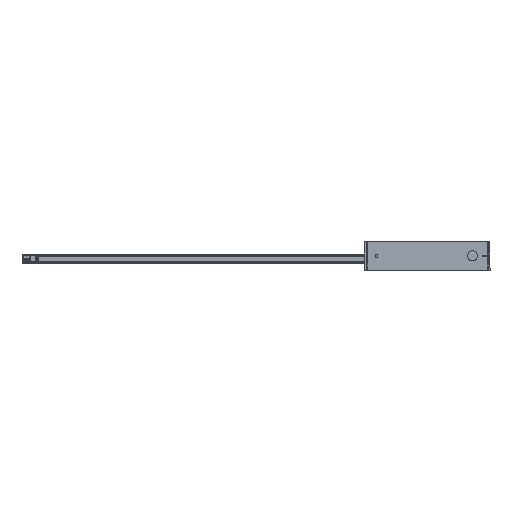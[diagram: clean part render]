
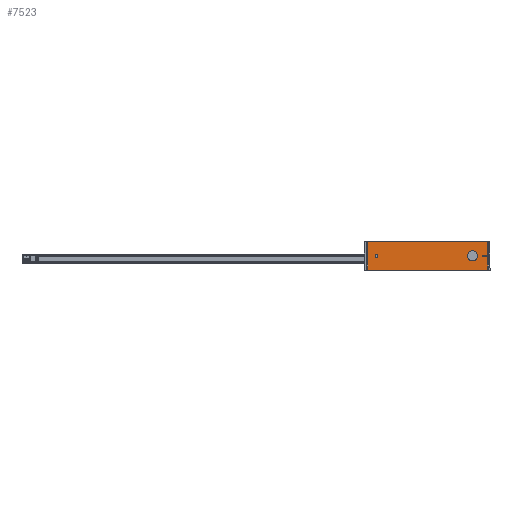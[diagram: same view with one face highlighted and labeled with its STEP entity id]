
A CAD part, top view. The second image highlights one B-rep face of the part: STEP entity #7523.
In plain terms, the highlighted planar face has unit normal (0, 0, 1) as drawn and (0, -1, 0) by its records, which use the part's own axes.
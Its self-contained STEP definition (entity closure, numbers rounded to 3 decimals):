
#3760 = EDGE_LOOP ( 'NONE', ( #6765, #6769, #6767, #6771 ) ) ;
#3767 = EDGE_LOOP ( 'NONE', ( #6766, #6768 ) ) ;
#3911 = EDGE_LOOP ( 'NONE', ( #6757, #6758, #6756, #6760, #6759 ) ) ;
#3915 = EDGE_LOOP ( 'NONE', ( #6761, #6763, #6762, #6764 ) ) ;
#4886 = EDGE_CURVE ( 'NONE', #9158, #9098, #8548, .T. ) ;
#4890 = EDGE_CURVE ( 'NONE', #9656, #9818, #8550, .T. ) ;
#6756 = ORIENTED_EDGE ( 'NONE', *, *, #7250, .F. ) ;
#6757 = ORIENTED_EDGE ( 'NONE', *, *, #7249, .F. ) ;
#6758 = ORIENTED_EDGE ( 'NONE', *, *, #4886, .F. ) ;
#6759 = ORIENTED_EDGE ( 'NONE', *, *, #7253, .F. ) ;
#6760 = ORIENTED_EDGE ( 'NONE', *, *, #7251, .F. ) ;
#6761 = ORIENTED_EDGE ( 'NONE', *, *, #7254, .F. ) ;
#6762 = ORIENTED_EDGE ( 'NONE', *, *, #7255, .F. ) ;
#6763 = ORIENTED_EDGE ( 'NONE', *, *, #7252, .F. ) ;
#6764 = ORIENTED_EDGE ( 'NONE', *, *, #7256, .F. ) ;
#6765 = ORIENTED_EDGE ( 'NONE', *, *, #7258, .F. ) ;
#6766 = ORIENTED_EDGE ( 'NONE', *, *, #7257, .F. ) ;
#6767 = ORIENTED_EDGE ( 'NONE', *, *, #7259, .T. ) ;
#6768 = ORIENTED_EDGE ( 'NONE', *, *, #4890, .F. ) ;
#6769 = ORIENTED_EDGE ( 'NONE', *, *, #7247, .F. ) ;
#6771 = ORIENTED_EDGE ( 'NONE', *, *, #7244, .F. ) ;
#7244 = EDGE_CURVE ( 'NONE', #9321, #9111, #24012, .T. ) ;
#7247 = EDGE_CURVE ( 'NONE', #9340, #9448, #24021, .T. ) ;
#7249 = EDGE_CURVE ( 'NONE', #9098, #9238, #24027, .T. ) ;
#7250 = EDGE_CURVE ( 'NONE', #10079, #9158, #8556, .T. ) ;
#7251 = EDGE_CURVE ( 'NONE', #9236, #10079, #24033, .T. ) ;
#7252 = EDGE_CURVE ( 'NONE', #9405, #9454, #8560, .T. ) ;
#7253 = EDGE_CURVE ( 'NONE', #9238, #9236, #8559, .T. ) ;
#7254 = EDGE_CURVE ( 'NONE', #9454, #9487, #24042, .T. ) ;
#7255 = EDGE_CURVE ( 'NONE', #9665, #9405, #24045, .T. ) ;
#7256 = EDGE_CURVE ( 'NONE', #9487, #9665, #8558, .T. ) ;
#7257 = EDGE_CURVE ( 'NONE', #9818, #9656, #8557, .T. ) ;
#7258 = EDGE_CURVE ( 'NONE', #9448, #9321, #24054, .T. ) ;
#7259 = EDGE_CURVE ( 'NONE', #9340, #9111, #24057, .T. ) ;
#7523 = ADVANCED_FACE ( 'NONE', ( #20974, #20970, #20981, #20983 ), #25019, .F. ) ;
#8548 = CIRCLE ( 'NONE', #20385, 2.1 ) ;
#8550 = CIRCLE ( 'NONE', #20331, 12.5 ) ;
#8556 = CIRCLE ( 'NONE', #20414, 2.1 ) ;
#8557 = CIRCLE ( 'NONE', #20418, 12.5 ) ;
#8558 = CIRCLE ( 'NONE', #20416, 2.1 ) ;
#8559 = CIRCLE ( 'NONE', #20401, 2.1 ) ;
#8560 = CIRCLE ( 'NONE', #20407, 2.1 ) ;
#9098 = VERTEX_POINT ( 'NONE', #30216 ) ;
#9111 = VERTEX_POINT ( 'NONE', #30229 ) ;
#9158 = VERTEX_POINT ( 'NONE', #30276 ) ;
#9236 = VERTEX_POINT ( 'NONE', #30354 ) ;
#9238 = VERTEX_POINT ( 'NONE', #30356 ) ;
#9321 = VERTEX_POINT ( 'NONE', #30439 ) ;
#9340 = VERTEX_POINT ( 'NONE', #30458 ) ;
#9405 = VERTEX_POINT ( 'NONE', #30523 ) ;
#9448 = VERTEX_POINT ( 'NONE', #30566 ) ;
#9454 = VERTEX_POINT ( 'NONE', #30572 ) ;
#9487 = VERTEX_POINT ( 'NONE', #30605 ) ;
#9656 = VERTEX_POINT ( 'NONE', #30774 ) ;
#9665 = VERTEX_POINT ( 'NONE', #30783 ) ;
#9818 = VERTEX_POINT ( 'NONE', #30936 ) ;
#10079 = VERTEX_POINT ( 'NONE', #31197 ) ;
#20331 = AXIS2_PLACEMENT_3D ( 'NONE', #23549, #23550, #23551 ) ;
#20385 = AXIS2_PLACEMENT_3D ( 'NONE', #23537, #23538, #23539 ) ;
#20401 = AXIS2_PLACEMENT_3D ( 'NONE', #24038, #24039, #24040 ) ;
#20407 = AXIS2_PLACEMENT_3D ( 'NONE', #24032, #24036, #24037 ) ;
#20410 = VECTOR ( 'NONE', #24014, 1000. ) ;
#20413 = VECTOR ( 'NONE', #24023, 1000. ) ;
#20414 = AXIS2_PLACEMENT_3D ( 'NONE', #24011, #24030, #24031 ) ;
#20416 = AXIS2_PLACEMENT_3D ( 'NONE', #24041, #24048, #24049 ) ;
#20417 = VECTOR ( 'NONE', #24029, 1000. ) ;
#20418 = AXIS2_PLACEMENT_3D ( 'NONE', #24050, #24051, #24052 ) ;
#20419 = VECTOR ( 'NONE', #24035, 1000. ) ;
#20420 = VECTOR ( 'NONE', #24044, 1000. ) ;
#20422 = VECTOR ( 'NONE', #24047, 1000. ) ;
#20424 = VECTOR ( 'NONE', #24056, 1000. ) ;
#20426 = VECTOR ( 'NONE', #24059, 1000. ) ;
#20970 = FACE_BOUND ( 'NONE', #3915, .T. ) ;
#20974 = FACE_BOUND ( 'NONE', #3911, .T. ) ;
#20977 = AXIS2_PLACEMENT_3D ( 'NONE', #25020, #25021, #25022 ) ;
#20981 = FACE_BOUND ( 'NONE', #3767, .T. ) ;
#20983 = FACE_OUTER_BOUND ( 'NONE', #3760, .T. ) ;
#23537 = CARTESIAN_POINT ( 'NONE',  ( -125.5, -2., -2.5 ) ) ;
#23538 = DIRECTION ( 'NONE',  ( 0., -1., 0. ) ) ;
#23539 = DIRECTION ( 'NONE',  ( 0., 0., -1. ) ) ;
#23549 = CARTESIAN_POINT ( 'NONE',  ( 110.5, -2., 0. ) ) ;
#23550 = DIRECTION ( 'NONE',  ( 0., -1., 0. ) ) ;
#23551 = DIRECTION ( 'NONE',  ( 0., 0., -1. ) ) ;
#24011 = CARTESIAN_POINT ( 'NONE',  ( -125.5, -2., -2.5 ) ) ;
#24012 = LINE ( 'NONE', #24013, #20410 ) ;
#24013 = CARTESIAN_POINT ( 'NONE',  ( -202.5, -2., -35. ) ) ;
#24014 = DIRECTION ( 'NONE',  ( -1., 0., 0. ) ) ;
#24021 = LINE ( 'NONE', #24022, #20413 ) ;
#24022 = CARTESIAN_POINT ( 'NONE',  ( -202.5, -2., 35. ) ) ;
#24023 = DIRECTION ( 'NONE',  ( 1., 0., 0. ) ) ;
#24027 = LINE ( 'NONE', #24028, #20417 ) ;
#24028 = CARTESIAN_POINT ( 'NONE',  ( -123.4, -2., -2.5 ) ) ;
#24029 = DIRECTION ( 'NONE',  ( 0., 0., 1. ) ) ;
#24030 = DIRECTION ( 'NONE',  ( 0., -1., 0. ) ) ;
#24031 = DIRECTION ( 'NONE',  ( 0., 0., -1. ) ) ;
#24032 = CARTESIAN_POINT ( 'NONE',  ( 138., -2., 0. ) ) ;
#24033 = LINE ( 'NONE', #24034, #20419 ) ;
#24034 = CARTESIAN_POINT ( 'NONE',  ( -127.6, -2., -2.5 ) ) ;
#24035 = DIRECTION ( 'NONE',  ( 0., 0., -1. ) ) ;
#24036 = DIRECTION ( 'NONE',  ( 0., -1., 0. ) ) ;
#24037 = DIRECTION ( 'NONE',  ( 0., 0., -1. ) ) ;
#24038 = CARTESIAN_POINT ( 'NONE',  ( -125.5, -2., 2.5 ) ) ;
#24039 = DIRECTION ( 'NONE',  ( 0., -1., 0. ) ) ;
#24040 = DIRECTION ( 'NONE',  ( 0., 0., -1. ) ) ;
#24041 = CARTESIAN_POINT ( 'NONE',  ( 143., -2., 0. ) ) ;
#24042 = LINE ( 'NONE', #24043, #20420 ) ;
#24043 = CARTESIAN_POINT ( 'NONE',  ( 138., -2., -2.1 ) ) ;
#24044 = DIRECTION ( 'NONE',  ( 1., 0., 0. ) ) ;
#24045 = LINE ( 'NONE', #24046, #20422 ) ;
#24046 = CARTESIAN_POINT ( 'NONE',  ( 138., -2., 2.1 ) ) ;
#24047 = DIRECTION ( 'NONE',  ( -1., 0., 0. ) ) ;
#24048 = DIRECTION ( 'NONE',  ( 0., -1., 0. ) ) ;
#24049 = DIRECTION ( 'NONE',  ( 0., 0., -1. ) ) ;
#24050 = CARTESIAN_POINT ( 'NONE',  ( 110.5, -2., 0. ) ) ;
#24051 = DIRECTION ( 'NONE',  ( 0., -1., 0. ) ) ;
#24052 = DIRECTION ( 'NONE',  ( 0., 0., -1. ) ) ;
#24054 = LINE ( 'NONE', #24055, #20424 ) ;
#24055 = CARTESIAN_POINT ( 'NONE',  ( 148., -2., 0. ) ) ;
#24056 = DIRECTION ( 'NONE',  ( 0., 0., -1. ) ) ;
#24057 = LINE ( 'NONE', #24058, #20426 ) ;
#24058 = CARTESIAN_POINT ( 'NONE',  ( -148., -2., 0. ) ) ;
#24059 = DIRECTION ( 'NONE',  ( 0., 0., -1. ) ) ;
#25019 = PLANE ( 'NONE',  #20977 ) ;
#25020 = CARTESIAN_POINT ( 'NONE',  ( 0., -2., 0. ) ) ;
#25021 = DIRECTION ( 'NONE',  ( 0., 1., 0. ) ) ;
#25022 = DIRECTION ( 'NONE',  ( 0., 0., 1. ) ) ;
#30216 = CARTESIAN_POINT ( 'NONE',  ( -123.4, -2., -2.5 ) ) ;
#30229 = CARTESIAN_POINT ( 'NONE',  ( -148., -2., -35. ) ) ;
#30276 = CARTESIAN_POINT ( 'NONE',  ( -125.5, -2., -4.6 ) ) ;
#30354 = CARTESIAN_POINT ( 'NONE',  ( -127.6, -2., 2.5 ) ) ;
#30356 = CARTESIAN_POINT ( 'NONE',  ( -123.4, -2., 2.5 ) ) ;
#30439 = CARTESIAN_POINT ( 'NONE',  ( 148., -2., -35. ) ) ;
#30458 = CARTESIAN_POINT ( 'NONE',  ( -148., -2., 35. ) ) ;
#30523 = CARTESIAN_POINT ( 'NONE',  ( 138., -2., 2.1 ) ) ;
#30566 = CARTESIAN_POINT ( 'NONE',  ( 148., -2., 35. ) ) ;
#30572 = CARTESIAN_POINT ( 'NONE',  ( 138., -2., -2.1 ) ) ;
#30605 = CARTESIAN_POINT ( 'NONE',  ( 143., -2., -2.1 ) ) ;
#30774 = CARTESIAN_POINT ( 'NONE',  ( 110.5, -2., 12.5 ) ) ;
#30783 = CARTESIAN_POINT ( 'NONE',  ( 143., -2., 2.1 ) ) ;
#30936 = CARTESIAN_POINT ( 'NONE',  ( 110.5, -2., -12.5 ) ) ;
#31197 = CARTESIAN_POINT ( 'NONE',  ( -127.6, -2., -2.5 ) ) ;
